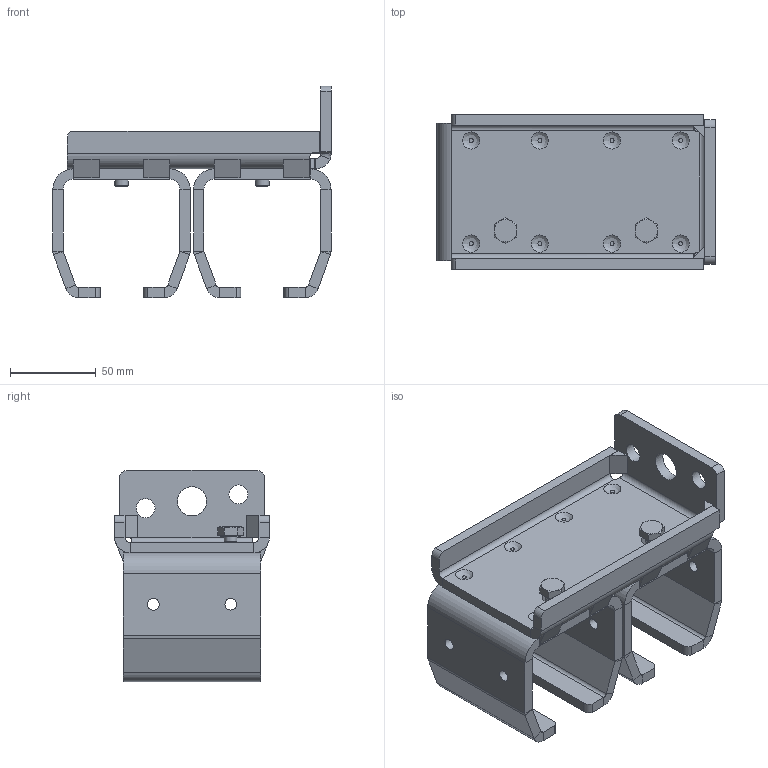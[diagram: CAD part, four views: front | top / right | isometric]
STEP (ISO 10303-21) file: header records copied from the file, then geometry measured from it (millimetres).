
FILE_DESCRIPTION(/* description */ ('Doppelte Wandbefestigung Nr.3'),/* implementation_level */ '2;1');
FILE_NAME(/* name */ 'Q:\sge-ma\Produktmanagement-STB\STB\Workspace\stp\010333025.stp',/* time_stamp */ '2015-03-10T12:42:26+01:00',/* author */ ('avschreier'),/* organization */ (''),/* preprocessor_version */ 'ST-DEVELOPER v15.6',/* originating_system */ 'Autodesk Inventor 2015',/* authorisation */ '');
FILE_SCHEMA (('CONFIG_CONTROL_DESIGN'));
Length unit declared in the file: millimetre
Products named in the file (5): 010333025_Schweißnähte; 337000263; 335140030; DIN_EN_ISO_4017-M8x20_en; 010333025
Bounding box: 162.05 x 90 x 123 mm (x, y, z)
Volume: 351516.6 mm3; surface area: 135513.2 mm2
Topology: 15 solids, 15 shells, 309 faces, 667 edges, 408 vertices
Faces by surface type: plane 192, cylinder 79, bspline 22, cone 16
Full cylindrical faces by diameter (mm): 6.647 x6, 6.8 x6, 7.323 x2, 8 x2, 11 x2, 11.4 x2, 12 x2, 17 x1
Entity records: 7409 total; most frequent: CARTESIAN_POINT 2509, DIRECTION 1014, ORIENTED_EDGE 930, EDGE_CURVE 465, AXIS2_PLACEMENT_3D 376, VERTEX_POINT 301, EDGE_LOOP 280, LINE 262
